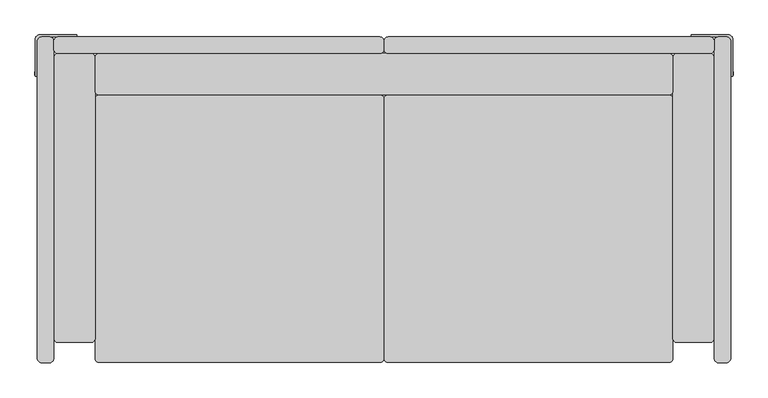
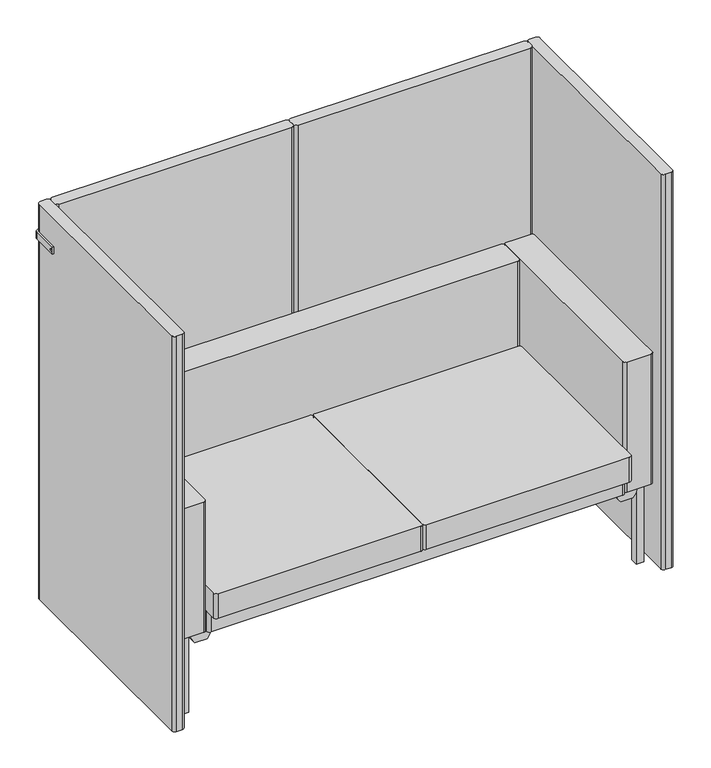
"""IFC4 building model written with IfcOpenShell, lengths in millimetres: furniture geometry, Sofá - COLAB - SE 1600 : Sofá - COLAB - SE 1600."""

import ifcopenshell
import ifcopenshell.guid

model = None  # the IFC model being written
_history = None  # IfcOwnerHistory: only IFC2X3 demands one
_inside = {}  # id of a spatial element -> (the spatial element, [elements in it])
_under = {}  # id of a project, library or spatial element -> (it, [spatial elements below it])
_declared = {}  # id of a project -> (the project, [libraries it declares])
_typed = {}  # id of a type object -> (the type object, [elements of that type])
_made_of = {}  # id of a material, layer set ... -> (it, [elements and type objects made of it])


def new_model(schema):
    """Start an empty IFC model of exactly this schema.

    Asked for "IFC4X3", IfcOpenShell would pick the latest addendum, in which some entities
    have other attributes; the version numbers below select the first issue.
    IFC2X3 requires an IfcOwnerHistory on every rooted entity: one is made here for all.
    """
    global model, _history
    if schema == "IFC4X3":
        model = ifcopenshell.file(schema_version=(4, 3, 0, 0))
    else:
        model = ifcopenshell.file(schema=schema)
    _inside.clear()
    _under.clear()
    _declared.clear()
    _typed.clear()
    _made_of.clear()
    _history = None
    if model.schema == "IFC2X3":
        org = make("IfcOrganization", Name="unknown")
        user = make(
            "IfcPersonAndOrganization",
            ThePerson=make("IfcPerson", FamilyName="unknown"),
            TheOrganization=org,
        )
        app = make(
            "IfcApplication",
            ApplicationDeveloper=org,
            Version="unknown",
            ApplicationFullName="unknown",
            ApplicationIdentifier="unknown",
        )
        _history = make(
            "IfcOwnerHistory",
            OwningUser=user,
            OwningApplication=app,
            ChangeAction="ADDED",
            CreationDate=0,
        )
    return model


def make(cls, **values):
    """One entity of the class cls with the attributes given. An attribute that is None is left unset."""
    return model.create_entity(
        cls, **{name: value for name, value in values.items() if value is not None}
    )


def rooted(cls, **values):
    """An entity with a GlobalId (a new one), such as an element, a storey or a relation."""
    return make(cls, GlobalId=ifcopenshell.guid.new(), OwnerHistory=_history, **values)


def si_unit(unit_type, name, prefix=None):
    """IfcSIUnit, for example si_unit("LENGTHUNIT", "METRE", prefix="MILLI")."""
    return make("IfcSIUnit", UnitType=unit_type, Prefix=prefix, Name=name)


def assignment(units):
    """IfcUnitAssignment: the units of a project."""
    return None if units is None else make("IfcUnitAssignment", Units=units)


def point(xyz):
    """IfcCartesianPoint."""
    return None if xyz is None else make("IfcCartesianPoint", Coordinates=xyz)


def direction(xyz):
    """IfcDirection."""
    return None if xyz is None else make("IfcDirection", DirectionRatios=xyz)


def frame(location, z_axis=None, x_axis=None):
    """IfcAxis2Placement3D, a coordinate frame: its origin and axes. An axis left out is left unset."""
    return make(
        "IfcAxis2Placement3D",
        Location=point(location),
        Axis=direction(z_axis),
        RefDirection=direction(x_axis),
    )


def frame_2d(location, x_axis=None):
    """IfcAxis2Placement2D, a coordinate frame in the plane: its origin and x axis."""
    return make(
        "IfcAxis2Placement2D", Location=point(location), RefDirection=direction(x_axis)
    )


def origin():
    """The frame at (0, 0, 0) with its axes left unset."""
    return frame((0.0, 0.0, 0.0))


def origin_with_axes():
    """The frame at (0, 0, 0) with the z axis (0, 0, 1) and the x axis (1, 0, 0) written out."""
    return frame((0.0, 0.0, 0.0), z_axis=(0.0, 0.0, 1.0), x_axis=(1.0, 0.0, 0.0))


def place(relative_to, where):
    """IfcLocalPlacement: puts the frame where relative to a parent placement (None: the world)."""
    return make(
        "IfcLocalPlacement", PlacementRelTo=relative_to, RelativePlacement=where
    )


def context(
    kind, dimensions, precision=None, world=None, true_north=None, identifier=None
):
    """IfcGeometricRepresentationContext, for example the 3D "Model" context."""
    return make(
        "IfcGeometricRepresentationContext",
        ContextIdentifier=identifier,
        ContextType=kind,
        CoordinateSpaceDimension=dimensions,
        Precision=precision,
        WorldCoordinateSystem=world,
        TrueNorth=true_north,
    )


def project(units=None, contexts=None):
    """IfcProject with its units and contexts."""
    return rooted(
        "IfcProject",
        Name="project",
        RepresentationContexts=contexts,
        UnitsInContext=assignment(units),
    )


def spatial(cls, under=None, at=None, **own):
    """A site, building, storey or space (cls), placed at a placement, below another one or the project."""
    s = rooted(cls, ObjectPlacement=at, **own)
    if under is not None:
        _under.setdefault(under.id(), (under, []))[1].append(s)
    return s


def polyline(points):
    """IfcPolyline through the points."""
    return make("IfcPolyline", Points=[point(p) for p in points])


def circle_curve(where, radius):
    """IfcCircle in the frame where."""
    return make("IfcCircle", Position=where, Radius=radius)


def trimmed(basis, trim1, trim2, sense, master):
    """IfcTrimmedCurve: the piece of a basis curve between two trims."""
    return make(
        "IfcTrimmedCurve",
        BasisCurve=basis,
        Trim1=trim1,
        Trim2=trim2,
        SenseAgreement=sense,
        MasterRepresentation=master,
    )


def segment(curve, same_sense, transition):
    """IfcCompositeCurveSegment."""
    return make(
        "IfcCompositeCurveSegment",
        Transition=transition,
        SameSense=same_sense,
        ParentCurve=curve,
    )


def composite_curve(segments, self_intersect=None):
    """IfcCompositeCurve: segments joined end to end."""
    return make("IfcCompositeCurve", Segments=segments, SelfIntersect=self_intersect)


def outline(outer, holes=None, kind="AREA"):
    """IfcArbitraryClosedProfileDef: a profile drawn as a closed curve; with holes, ...WithVoids."""
    if holes is None:
        return make("IfcArbitraryClosedProfileDef", ProfileType=kind, OuterCurve=outer)
    return make(
        "IfcArbitraryProfileDefWithVoids",
        ProfileType=kind,
        OuterCurve=outer,
        InnerCurves=holes,
    )


def extrude(swept, where, along, depth):
    """IfcExtrudedAreaSolid: the profile swept, set in the frame where, extruded along a direction by depth."""
    return make(
        "IfcExtrudedAreaSolid",
        SweptArea=swept,
        Position=where,
        ExtrudedDirection=direction(along),
        Depth=depth,
    )


def shape(context_of_items, identifier, shape_type, items):
    """IfcShapeRepresentation: the items that make up one representation, for example the "Body"."""
    return make(
        "IfcShapeRepresentation",
        ContextOfItems=context_of_items,
        RepresentationIdentifier=identifier,
        RepresentationType=shape_type,
        Items=items,
    )


def source(mapping_origin, context_of_items, identifier, shape_type, items):
    """IfcRepresentationMap: a shape defined once, which mapped items show again and again."""
    return make(
        "IfcRepresentationMap",
        MappingOrigin=mapping_origin,
        MappedRepresentation=shape(context_of_items, identifier, shape_type, items),
    )


def transform(
    local_origin,
    x_axis=None,
    y_axis=None,
    z_axis=None,
    scale=None,
    scale2=None,
    scale3=None,
    uniform=True,
):
    """IfcCartesianTransformationOperator3D, or its non-uniform kind. x_axis, y_axis, z_axis: its Axis1, 2, 3."""
    if uniform:
        return make(
            "IfcCartesianTransformationOperator3D",
            Axis1=direction(x_axis),
            Axis2=direction(y_axis),
            LocalOrigin=point(local_origin),
            Scale=scale,
            Axis3=direction(z_axis),
        )
    return make(
        "IfcCartesianTransformationOperator3DnonUniform",
        Axis1=direction(x_axis),
        Axis2=direction(y_axis),
        LocalOrigin=point(local_origin),
        Scale=scale,
        Axis3=direction(z_axis),
        Scale2=scale2,
        Scale3=scale3,
    )


def mapped(mapping_source, mapping_target):
    """IfcMappedItem: shows the shape of a source again, moved by a transform."""
    return make(
        "IfcMappedItem", MappingSource=mapping_source, MappingTarget=mapping_target
    )


def made_of(thing, what):
    """Note that an element or type object is made of a material, layer set ...; save() writes the relation."""
    if what is not None:
        _made_of.setdefault(what.id(), (what, []))[1].append(thing)
    return thing


def element(
    cls,
    number,
    at=None,
    inside=None,
    cuts=None,
    type_object=None,
    material=None,
    context=None,
    identifier="Body",
    shape_type=None,
    held_by="IfcProductDefinitionShape",
    body=None,
    shapes=None,
    **own,
):
    """One element of the class cls, such as IfcWall. Its Tag is "e" and its number.

    at: its placement. inside: the storey or other place that contains it. cuts: it is an
    opening in that element (IfcRelVoidsElement). A single representation is given by context,
    identifier, shape_type and body (its items); several are given by shapes. held_by: the class
    of the entity that holds the representations. save() writes the other relations.
    """
    e = rooted(cls, Tag="e%d" % number, ObjectPlacement=at, **own)
    if body is not None:
        shapes = [shape(context, identifier, shape_type, body)]
    if shapes is not None:
        e.Representation = make(held_by, Representations=shapes)
    if inside is not None:
        _inside.setdefault(inside.id(), (inside, []))[1].append(e)
    if cuts is not None:
        rooted(
            "IfcRelVoidsElement", RelatingBuildingElement=cuts, RelatedOpeningElement=e
        )
    if type_object is not None:
        _typed.setdefault(type_object.id(), (type_object, []))[1].append(e)
    return made_of(e, material)


def aggregate(whole, parts):
    """IfcRelAggregates: a whole, such as a stair, and the parts it consists of."""
    return rooted("IfcRelAggregates", RelatingObject=whole, RelatedObjects=parts)


def save(model, path):
    """Write the relations noted so far, then the file.

    IfcRelAggregates (storeys below a building ...), IfcRelContainedInSpatialStructure (elements
    in a storey), IfcRelDefinesByType, IfcRelAssociatesMaterial and IfcRelDeclares: one each for
    every whole, place, type object, material and project.
    """
    for whole, parts in _under.values():
        aggregate(whole, parts)
    for where, things in _inside.values():
        rooted(
            "IfcRelContainedInSpatialStructure",
            RelatedElements=things,
            RelatingStructure=where,
        )
    for kind, things in _typed.values():
        rooted("IfcRelDefinesByType", RelatedObjects=things, RelatingType=kind)
    for what, things in _made_of.values():
        rooted("IfcRelAssociatesMaterial", RelatedObjects=things, RelatingMaterial=what)
    for by, libraries in _declared.values():
        rooted("IfcRelDeclares", RelatingContext=by, RelatedDefinitions=libraries)
    model.write(path)


def furniture_0988fbb2(model_context):
    return source(origin(), model_context, "Body", "SweptSolid", [
        extrude(outline(composite_curve([segment(trimmed(circle_curve(frame_2d((699.8463907, 1287.5000002)), 3.8), [point((696.0463907, 1287.5000002))], [point((703.6463907, 1287.5000002))], False, "CARTESIAN"), True, "CONTINUOUS"), segment(trimmed(circle_curve(frame_2d((699.8463907, 1287.5000002)), 3.8), [point((703.6463907, 1287.5000002))], [point((696.0463907, 1287.5000002))], False, "CARTESIAN"), True, "CONTINUOUS")], self_intersect=False)), frame((1644.8497492, 0.0, 0.0), z_axis=(1.0, 0.0, 0.0), x_axis=(0.0, 1.0, 0.0)), (0.0, 0.0, 1.0), 0.9502508),
        extrude(outline(composite_curve([segment(trimmed(circle_curve(frame_2d((699.8463907, 1287.5000002)), 3.8), [point((696.0463907, 1287.5000002))], [point((703.6463907, 1287.5000002))], False, "CARTESIAN"), True, "CONTINUOUS"), segment(trimmed(circle_curve(frame_2d((699.8463907, 1287.5000002)), 3.8), [point((703.6463907, 1287.5000002))], [point((696.0463907, 1287.5000002))], False, "CARTESIAN"), True, "CONTINUOUS")], self_intersect=False)), frame((-45.8, 0.0, 0.0), z_axis=(1.0, 0.0, 0.0), x_axis=(0.0, 1.0, 0.0)), (0.0, 0.0, 1.0), 0.9502508),
        extrude(outline(composite_curve([segment(polyline([(-34.8497484, 793.2050002), (55.1502516, 793.2050002), (55.1502516, 788.2049994), (-29.8497492, 788.2049994)]), True, "CONTINUOUS"), segment(trimmed(circle_curve(frame_2d((-29.8497492, 778.2049994)), 10.0), [point((-29.8497492, 788.2049994))], [point((-39.8497492, 778.2049994))], True, "CARTESIAN"), True, "CONTINUOUS"), segment(polyline([(-39.8497492, 778.2049994), (-39.8497492, 693.2049994), (-44.8497492, 693.2049994), (-44.8497492, 783.2049994)]), True, "CONTINUOUS"), segment(trimmed(circle_curve(frame_2d((-34.8497484, 783.2049994)), 10.0000008), [point((-44.8497492, 783.2049994))], [point((-34.8497484, 793.2050002))], False, "CARTESIAN"), True, "CONTINUOUS")], self_intersect=False)), frame((0.0, 0.0, 1275.0000001), z_axis=(0.0, 0.0, 1.0), x_axis=(1.0, 0.0, 0.0)), (0.0, 0.0, 1.0), 25.0000002),
        extrude(outline(composite_curve([segment(trimmed(circle_curve(frame_2d((1634.8497484, 783.2049994)), 10.0000008), [point((1634.8497484, 793.2050002))], [point((1644.8497492, 783.2049994))], False, "CARTESIAN"), True, "CONTINUOUS"), segment(polyline([(1644.8497492, 783.2049994), (1644.8497492, 693.2049994), (1639.8497492, 693.2049994), (1639.8497492, 778.2049994)]), True, "CONTINUOUS"), segment(trimmed(circle_curve(frame_2d((1629.8497492, 778.2049994)), 10.0), [point((1639.8497492, 778.2049994))], [point((1629.8497492, 788.2049994))], True, "CARTESIAN"), True, "CONTINUOUS"), segment(polyline([(1629.8497492, 788.2049994), (1544.8497484, 788.2049994), (1544.8497484, 793.2050002), (1634.8497484, 793.2050002)]), True, "CONTINUOUS")], self_intersect=False)), frame((0.0, 0.0, 1275.0000001), z_axis=(0.0, 0.0, 1.0), x_axis=(1.0, 0.0, 0.0)), (0.0, 0.0, 1.0), 25.0000002),
        extrude(outline(composite_curve([segment(trimmed(circle_curve(frame_2d((809.8956015, 778.3099485)), 9.8956015), [point((800.0, 778.3099485))], [point((809.7912117, 788.2049994))], False, "CARTESIAN"), True, "CONTINUOUS"), segment(polyline([(809.7912117, 788.2049994), (1590.0453017, 788.2049994)]), True, "CONTINUOUS"), segment(trimmed(circle_curve(frame_2d((1590.0453017, 778.2503011)), 9.9546983), [point((1590.0453017, 788.2049994))], [point((1600.0, 778.2503011))], False, "CARTESIAN"), True, "CONTINUOUS"), segment(polyline([(1600.0, 778.2503011), (1600.0, 758.3099485)]), True, "CONTINUOUS"), segment(trimmed(circle_curve(frame_2d((1590.0453017, 758.3099485)), 9.9546983), [point((1600.0, 758.3099485))], [point((1590.0453017, 748.3552502))], False, "CARTESIAN"), True, "CONTINUOUS"), segment(polyline([(1590.0453017, 748.3552502), (810.0452931, 748.3552502)]), True, "CONTINUOUS"), segment(trimmed(circle_curve(frame_2d((810.0452931, 758.4005433)), 10.0452931), [point((810.0452931, 748.3552502))], [point((800.0, 758.4005433))], False, "CARTESIAN"), True, "CONTINUOUS"), segment(polyline([(800.0, 758.4005433), (800.0, 778.3099485)]), True, "CONTINUOUS")], self_intersect=False)), origin_with_axes(), (0.0, 0.0, 1.0), 1400.0000107),
        extrude(outline(composite_curve([segment(polyline([(800.0, 778.3099485), (800.0, 758.4005433)]), True, "CONTINUOUS"), segment(trimmed(circle_curve(frame_2d((789.9547069, 758.4005433)), 10.0452931), [point((800.0, 758.4005433))], [point((789.9547069, 748.3552502))], False, "CARTESIAN"), True, "CONTINUOUS"), segment(polyline([(789.9547069, 748.3552502), (9.9546983, 748.3552502)]), True, "CONTINUOUS"), segment(trimmed(circle_curve(frame_2d((9.9546983, 758.3099485)), 9.9546983), [point((9.9546983, 748.3552502))], [point((0.0, 758.3099485))], False, "CARTESIAN"), True, "CONTINUOUS"), segment(polyline([(0.0, 758.3099485), (0.0, 778.2503011)]), True, "CONTINUOUS"), segment(trimmed(circle_curve(frame_2d((9.9546983, 778.2503011)), 9.9546983), [point((0.0, 778.2503011))], [point((9.9546983, 788.2049994))], False, "CARTESIAN"), True, "CONTINUOUS"), segment(polyline([(9.9546983, 788.2049994), (790.2087883, 788.2049994)]), True, "CONTINUOUS"), segment(trimmed(circle_curve(frame_2d((790.1043985, 778.3099485)), 9.8956015), [point((790.2087883, 788.2049994))], [point((800.0, 778.3099485))], False, "CARTESIAN"), True, "CONTINUOUS")], self_intersect=False)), origin_with_axes(), (0.0, 0.0, 1.0), 1400.0000107),
        extrude(outline(composite_curve([segment(trimmed(circle_curve(frame_2d((1629.9546983, 778.3093979)), 9.8956015), [point((1629.9546983, 788.2049994))], [point((1639.8497492, 778.4137877))], False, "CARTESIAN"), True, "CONTINUOUS"), segment(polyline([(1639.8497492, 778.4137877), (1639.8497492, 9.1946983)]), True, "CONTINUOUS"), segment(trimmed(circle_curve(frame_2d((1629.8950509, 9.1946983)), 9.9546983), [point((1639.8497492, 9.1946983))], [point((1629.8950509, -0.76))], False, "CARTESIAN"), True, "CONTINUOUS"), segment(polyline([(1629.8950509, -0.76), (1609.9546983, -0.76)]), True, "CONTINUOUS"), segment(trimmed(circle_curve(frame_2d((1609.9546983, 9.1946983)), 9.9546983), [point((1609.9546983, -0.76))], [point((1600.0, 9.1946983))], False, "CARTESIAN"), True, "CONTINUOUS"), segment(polyline([(1600.0, 9.1946983), (1600.0, 778.1597063)]), True, "CONTINUOUS"), segment(trimmed(circle_curve(frame_2d((1610.0452931, 778.1597063)), 10.0452931), [point((1600.0, 778.1597063))], [point((1610.0452931, 788.2049994))], False, "CARTESIAN"), True, "CONTINUOUS"), segment(polyline([(1610.0452931, 788.2049994), (1629.9546983, 788.2049994)]), True, "CONTINUOUS")], self_intersect=False)), origin_with_axes(), (0.0, 0.0, 1.0), 1400.0000107),
        extrude(outline(composite_curve([segment(trimmed(circle_curve(frame_2d((-9.8950509, 778.3093979)), 9.8956015), [point((-9.8950509, 788.2049994))], [point((0.0, 778.4137877))], False, "CARTESIAN"), True, "CONTINUOUS"), segment(polyline([(0.0, 778.4137877), (0.0, 9.1946983)]), True, "CONTINUOUS"), segment(trimmed(circle_curve(frame_2d((-9.9546983, 9.1946983)), 9.9546983), [point((0.0, 9.1946983))], [point((-9.9546983, -0.76))], False, "CARTESIAN"), True, "CONTINUOUS"), segment(polyline([(-9.9546983, -0.76), (-29.8950509, -0.76)]), True, "CONTINUOUS"), segment(trimmed(circle_curve(frame_2d((-29.8950509, 9.1946983)), 9.9546983), [point((-29.8950509, -0.76))], [point((-39.8497492, 9.1946983))], False, "CARTESIAN"), True, "CONTINUOUS"), segment(polyline([(-39.8497492, 9.1946983), (-39.8497492, 778.1597063)]), True, "CONTINUOUS"), segment(trimmed(circle_curve(frame_2d((-29.8044561, 778.1597063)), 10.0452931), [point((-39.8497492, 778.1597063))], [point((-29.8044561, 788.2049994))], False, "CARTESIAN"), True, "CONTINUOUS"), segment(polyline([(-29.8044561, 788.2049994), (-9.8950509, 788.2049994)]), True, "CONTINUOUS")], self_intersect=False)), origin_with_axes(), (0.0, 0.0, 1.0), 1400.0000107),
        extrude(outline(composite_curve([segment(polyline([(1499.9914928, 637.9181793), (1499.9914928, 10.0042536)]), True, "CONTINUOUS"), segment(trimmed(circle_curve(frame_2d((1489.9872392, 10.0042536)), 10.0042536), [point((1499.9914928, 10.0042536))], [point((1489.9872392, 0.0))], False, "CARTESIAN"), True, "CONTINUOUS"), segment(polyline([(1489.9872392, 0.0), (810.0042536, 0.0)]), True, "CONTINUOUS"), segment(trimmed(circle_curve(frame_2d((810.0042536, 10.0042536)), 10.0042536), [point((810.0042536, 0.0))], [point((800.0, 10.0042536))], False, "CARTESIAN"), True, "CONTINUOUS"), segment(polyline([(800.0, 10.0042536), (800.0, 637.9181793)]), True, "CONTINUOUS"), segment(trimmed(circle_curve(frame_2d((810.0042536, 637.9181793)), 10.0042536), [point((800.0, 637.9181793))], [point((810.0042536, 647.9224329))], False, "CARTESIAN"), True, "CONTINUOUS"), segment(polyline([(810.0042536, 647.9224329), (1489.9872392, 647.9224329)]), True, "CONTINUOUS"), segment(trimmed(circle_curve(frame_2d((1489.9872392, 637.9181793)), 10.0042536), [point((1489.9872392, 647.9224329))], [point((1499.9914928, 637.9181793))], False, "CARTESIAN"), True, "CONTINUOUS")], self_intersect=False)), frame((0.0, 0.0, 351.2139073), z_axis=(0.0, 0.0, 1.0), x_axis=(1.0, 0.0, 0.0)), (0.0, 0.0, 1.0), 87.7045649),
        extrude(outline(composite_curve([segment(polyline([(245.4830285, 1493.9503112), (245.4830285, 1534.8322871)]), True, "CONTINUOUS"), segment(trimmed(circle_curve(frame_2d((284.679009, 1494.1491931)), 56.4928227), [point((245.4830285, 1534.8322871))], [point((279.4554332, 1550.4))], False, "CARTESIAN"), True, "CONTINUOUS"), segment(polyline([(279.4554332, 1550.4), (279.4554332, 1478.3825983)]), True, "CONTINUOUS"), segment(trimmed(circle_curve(frame_2d((284.679009, 1534.6334051)), 56.4928227), [point((279.4554332, 1478.3825983))], [point((245.4830285, 1493.9503112))], False, "CARTESIAN"), True, "CONTINUOUS")], self_intersect=False)), frame((0.0, 57.3761937, 0.0), z_axis=(0.0, 1.0, 0.0), x_axis=(0.0, 0.0, 1.0)), (0.0, 0.0, 1.0), 68.8985394),
        extrude(outline(composite_curve([segment(polyline([(245.4830285, 65.8589331), (245.4830285, 106.740909)]), True, "CONTINUOUS"), segment(trimmed(circle_curve(frame_2d((284.679009, 66.057815)), 56.4928227), [point((245.4830285, 106.740909))], [point((279.4554332, 122.3086219))], False, "CARTESIAN"), True, "CONTINUOUS"), segment(polyline([(279.4554332, 122.3086219), (279.4554332, 50.2912202)]), True, "CONTINUOUS"), segment(trimmed(circle_curve(frame_2d((284.679009, 106.5420271)), 56.4928227), [point((279.4554332, 50.2912202))], [point((245.4830285, 65.8589331))], False, "CARTESIAN"), True, "CONTINUOUS")], self_intersect=False)), frame((0.0, 57.3761937, 0.0), z_axis=(0.0, 1.0, 0.0), x_axis=(0.0, 0.0, 1.0)), (0.0, 0.0, 1.0), 68.8985394),
        extrude(outline(composite_curve([segment(trimmed(circle_curve(frame_2d((110.0127608, 637.9181793)), 10.0042536), [point((100.0085072, 637.9181793))], [point((110.0127608, 647.9224329))], False, "CARTESIAN"), True, "CONTINUOUS"), segment(polyline([(110.0127608, 647.9224329), (1489.9872392, 647.9224329)]), True, "CONTINUOUS"), segment(trimmed(circle_curve(frame_2d((1489.9872392, 637.9181793)), 10.0042536), [point((1489.9872392, 647.9224329))], [point((1499.9914928, 637.9181793))], False, "CARTESIAN"), True, "CONTINUOUS"), segment(polyline([(1499.9914928, 637.9181793), (1499.9914928, 50.0042536)]), True, "CONTINUOUS"), segment(trimmed(circle_curve(frame_2d((1489.9872392, 50.0042536)), 10.0042536), [point((1499.9914928, 50.0042536))], [point((1489.9872392, 40.0))], False, "CARTESIAN"), True, "CONTINUOUS"), segment(polyline([(1489.9872392, 40.0), (110.0127608, 40.0)]), True, "CONTINUOUS"), segment(trimmed(circle_curve(frame_2d((110.0127608, 50.0042536)), 10.0042536), [point((110.0127608, 40.0))], [point((100.0085072, 50.0042536))], False, "CARTESIAN"), True, "CONTINUOUS"), segment(polyline([(100.0085072, 50.0042536), (100.0085072, 637.9181793)]), True, "CONTINUOUS")], self_intersect=False)), frame((0.0, 0.0, 279.4554332), z_axis=(0.0, 0.0, 1.0), x_axis=(1.0, 0.0, 0.0)), (0.0, 0.0, 1.0), 71.7584741),
        extrude(outline(composite_curve([segment(trimmed(circle_curve(frame_2d((110.0127608, 637.9181793)), 10.0042536), [point((100.0085072, 637.9181793))], [point((110.0127608, 647.9224329))], False, "CARTESIAN"), True, "CONTINUOUS"), segment(polyline([(110.0127608, 647.9224329), (789.9957464, 647.9224329)]), True, "CONTINUOUS"), segment(trimmed(circle_curve(frame_2d((789.9957464, 637.9181793)), 10.0042536), [point((789.9957464, 647.9224329))], [point((800.0, 637.9181793))], False, "CARTESIAN"), True, "CONTINUOUS"), segment(polyline([(800.0, 637.9181793), (800.0, 10.0042536)]), True, "CONTINUOUS"), segment(trimmed(circle_curve(frame_2d((789.9957464, 10.0042536)), 10.0042536), [point((800.0, 10.0042536))], [point((789.9957464, 0.0))], False, "CARTESIAN"), True, "CONTINUOUS"), segment(polyline([(789.9957464, 0.0), (110.0127608, 0.0)]), True, "CONTINUOUS"), segment(trimmed(circle_curve(frame_2d((110.0127608, 10.0042536)), 10.0042536), [point((110.0127608, 0.0))], [point((100.0085072, 10.0042536))], False, "CARTESIAN"), True, "CONTINUOUS"), segment(polyline([(100.0085072, 10.0042536), (100.0085072, 637.9181793)]), True, "CONTINUOUS")], self_intersect=False)), frame((0.0, 0.0, 351.2139073), z_axis=(0.0, 0.0, 1.0), x_axis=(1.0, 0.0, 0.0)), (0.0, 0.0, 1.0), 87.7045649),
        extrude(outline(composite_curve([segment(polyline([(100.0085072, 657.9266865), (100.0085072, 738.3509966)]), True, "CONTINUOUS"), segment(trimmed(circle_curve(frame_2d((110.0127608, 738.3509966)), 10.0042536), [point((100.0085072, 738.3509966))], [point((110.0127608, 748.3552502))], False, "CARTESIAN"), True, "CONTINUOUS"), segment(polyline([(110.0127608, 748.3552502), (1489.9872392, 748.3552502)]), True, "CONTINUOUS"), segment(trimmed(circle_curve(frame_2d((1489.9872392, 738.3509966)), 10.0042536), [point((1489.9872392, 748.3552502))], [point((1499.9914928, 738.3509966))], False, "CARTESIAN"), True, "CONTINUOUS"), segment(polyline([(1499.9914928, 738.3509966), (1499.9914928, 657.9266865)]), True, "CONTINUOUS"), segment(trimmed(circle_curve(frame_2d((1489.9872392, 657.9266865)), 10.0042536), [point((1499.9914928, 657.9266865))], [point((1489.9872392, 647.9224329))], False, "CARTESIAN"), True, "CONTINUOUS"), segment(polyline([(1489.9872392, 647.9224329), (110.0127608, 647.9224329)]), True, "CONTINUOUS"), segment(trimmed(circle_curve(frame_2d((110.0127608, 657.9266865)), 10.0042536), [point((110.0127608, 647.9224329))], [point((100.0085072, 657.9266865))], False, "CARTESIAN"), True, "CONTINUOUS")], self_intersect=False)), frame((0.0, 0.0, 279.4554332), z_axis=(0.0, 0.0, 1.0), x_axis=(1.0, 0.0, 0.0)), (0.0, 0.0, 1.0), 460.5445779),
        extrude(outline(composite_curve([segment(trimmed(circle_curve(frame_2d((1589.9957464, 58.3509966)), 10.0042536), [point((1600.0, 58.3509966))], [point((1589.9957464, 48.346743))], False, "CARTESIAN"), True, "CONTINUOUS"), segment(polyline([(1589.9957464, 48.346743), (1509.9957464, 48.346743)]), True, "CONTINUOUS"), segment(trimmed(circle_curve(frame_2d((1509.9957464, 58.3509966)), 10.0042536), [point((1509.9957464, 48.346743))], [point((1499.9914928, 58.3509966))], False, "CARTESIAN"), True, "CONTINUOUS"), segment(polyline([(1499.9914928, 58.3509966), (1499.9914928, 738.3509966)]), True, "CONTINUOUS"), segment(trimmed(circle_curve(frame_2d((1509.9957464, 738.3509966)), 10.0042536), [point((1499.9914928, 738.3509966))], [point((1509.9957464, 748.3552502))], False, "CARTESIAN"), True, "CONTINUOUS"), segment(polyline([(1509.9957464, 748.3552502), (1589.9957464, 748.3552502)]), True, "CONTINUOUS"), segment(trimmed(circle_curve(frame_2d((1589.9957464, 738.3509966)), 10.0042536), [point((1589.9957464, 748.3552502))], [point((1600.0, 738.3509966))], False, "CARTESIAN"), True, "CONTINUOUS"), segment(polyline([(1600.0, 738.3509966), (1600.0, 58.3509966)]), True, "CONTINUOUS")], self_intersect=False)), frame((0.0, 0.0, 279.4554332), z_axis=(0.0, 0.0, 1.0), x_axis=(1.0, 0.0, 0.0)), (0.0, 0.0, 1.0), 460.5445779),
        extrude(outline(composite_curve([segment(polyline([(0.0, 58.3509966), (0.0, 738.3509966)]), True, "CONTINUOUS"), segment(trimmed(circle_curve(frame_2d((10.0042536, 738.3509966)), 10.0042536), [point((0.0, 738.3509966))], [point((10.0042536, 748.3552502))], False, "CARTESIAN"), True, "CONTINUOUS"), segment(polyline([(10.0042536, 748.3552502), (90.0042536, 748.3552502)]), True, "CONTINUOUS"), segment(trimmed(circle_curve(frame_2d((90.0042536, 738.3509966)), 10.0042536), [point((90.0042536, 748.3552502))], [point((100.0085072, 738.3509966))], False, "CARTESIAN"), True, "CONTINUOUS"), segment(polyline([(100.0085072, 738.3509966), (100.0085072, 58.3509966)]), True, "CONTINUOUS"), segment(trimmed(circle_curve(frame_2d((90.0042536, 58.3509966)), 10.0042536), [point((100.0085072, 58.3509966))], [point((90.0042536, 48.346743))], False, "CARTESIAN"), True, "CONTINUOUS"), segment(polyline([(90.0042536, 48.346743), (10.0042536, 48.346743)]), True, "CONTINUOUS"), segment(trimmed(circle_curve(frame_2d((10.0042536, 58.3509966)), 10.0042536), [point((10.0042536, 48.346743))], [point((0.0, 58.3509966))], False, "CARTESIAN"), True, "CONTINUOUS")], self_intersect=False)), frame((0.0, 0.0, 279.4554332), z_axis=(0.0, 0.0, 1.0), x_axis=(1.0, 0.0, 0.0)), (0.0, 0.0, 1.0), 460.5445779),
        extrude(outline(polyline([(1550.4, 205.7247839), (1550.4, 180.7247839), (50.2912202, 180.7247839), (50.2912202, 205.7247839), (1550.4, 205.7247839)])), frame((0.0, 0.0, 254.4554332), z_axis=(0.0, 0.0, 1.0), x_axis=(1.0, 0.0, 0.0)), (0.0, 0.0, 1.0), 25.0),
        extrude(outline(polyline([(1550.4, 605.7247839), (1550.4, 580.7247839), (50.2912202, 580.7247839), (50.2912202, 605.7247839), (1550.4, 605.7247839)])), frame((0.0, 0.0, 254.4554332), z_axis=(0.0, 0.0, 1.0), x_axis=(1.0, 0.0, 0.0)), (0.0, 0.0, 1.0), 25.0),
        extrude(outline(polyline([(722.267688, 0.0), (697.267688, 0.0), (697.267688, 254.4554332), (90.2661464, 254.4554332), (90.2661464, 0.0), (65.2661464, 0.0), (65.2661464, 279.4554332), (722.267688, 279.4554332), (722.267688, 0.0)])), frame((1550.4, 0.0, 0.0), z_axis=(1.0, 0.0, 0.0), x_axis=(0.0, 1.0, 0.0)), (0.0, 0.0, 1.0), 25.0),
        extrude(outline(polyline([(722.267688, 0.0), (697.267688, 0.0), (697.267688, 254.4554332), (90.2661464, 254.4554332), (90.2661464, 0.0), (65.2661464, 0.0), (65.2661464, 279.4554332), (722.267688, 279.4554332), (722.267688, 0.0)])), frame((24.5609209, 0.0, 0.0), z_axis=(1.0, 0.0, 0.0), x_axis=(0.0, 1.0, 0.0)), (0.0, 0.0, 1.0), 25.7302993),
    ])


if __name__ == "__main__":
    model = new_model("IFC4")
    model_context = context("Model", 3, world=origin())
    ifc_project = project(units=[si_unit("LENGTHUNIT", "METRE", prefix="MILLI")], contexts=[model_context])
    site = spatial("IfcSite", under=ifc_project)
    building = spatial("IfcBuilding", under=site)
    placement = place(None, origin())
    furniture_shape = furniture_0988fbb2(model_context)
    element("IfcFurniture", 1, ObjectType="Sofá - COLAB - SE 1600 : Sofá - COLAB - SE 1600", at=placement, inside=building, context=model_context, shape_type="MappedRepresentation", body=[
        mapped(furniture_shape, transform((0.0, 0.0, 0.0), x_axis=(1.0, 0.0, 0.0), y_axis=(0.0, 1.0, 0.0), z_axis=(0.0, 0.0, 1.0))),
    ])
    save(model, "model.ifc")
